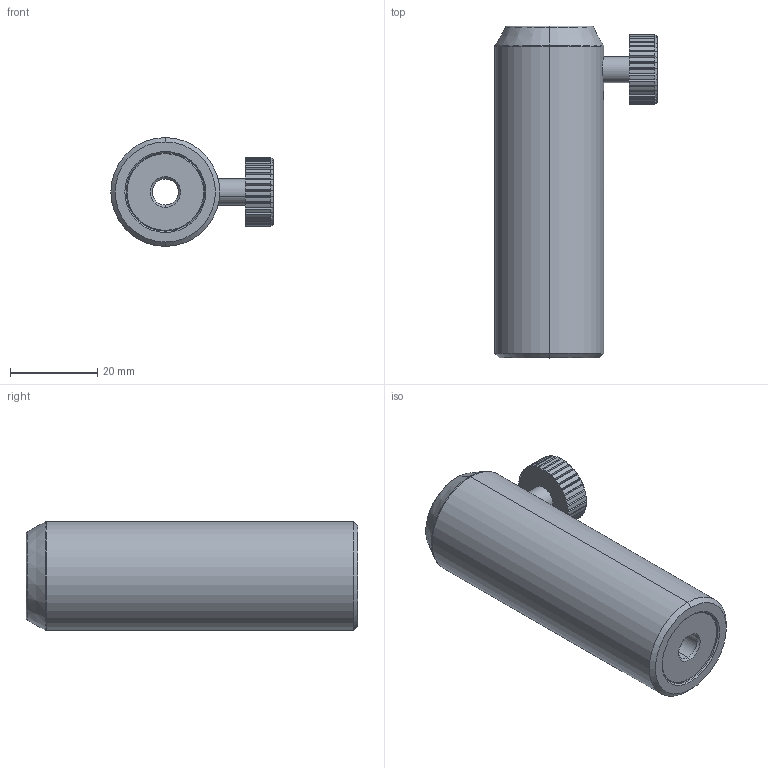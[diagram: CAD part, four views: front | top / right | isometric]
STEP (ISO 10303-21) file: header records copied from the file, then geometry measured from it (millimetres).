
FILE_DESCRIPTION (( 'STEP AP203' ), '1' );
FILE_NAME ('PH-3.STEP', '2016-11-29T08:35:30', ( '' ), ( '' ), 'SwSTEP 2.0', 'SolidWorks 2012', '' );
FILE_SCHEMA (( 'CONFIG_CONTROL_DESIGN' ));
Length unit declared in the file: millimetre
Products named in the file (1): PH-3
Bounding box: 37.25 x 76.2 x 25 mm (x, y, z)
Volume: 28696 mm3; surface area: 12376.1 mm2
Topology: 6 solids, 6 shells, 218 faces, 572 edges, 372 vertices
Faces by surface type: plane 113, cylinder 78, cone 18, torus 4, sphere 3, bspline 2
Entity records: 9130 total; most frequent: CARTESIAN_POINT 3733, ORIENTED_EDGE 1132, DIRECTION 1077, EDGE_CURVE 566, AXIS2_PLACEMENT_3D 395, VERTEX_POINT 369, VECTOR 287, LINE 287
